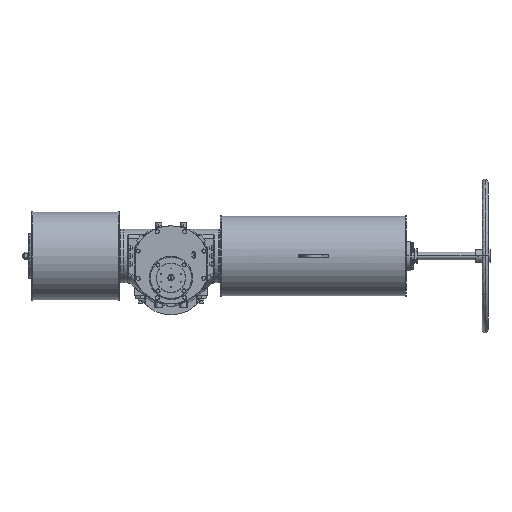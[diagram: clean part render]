
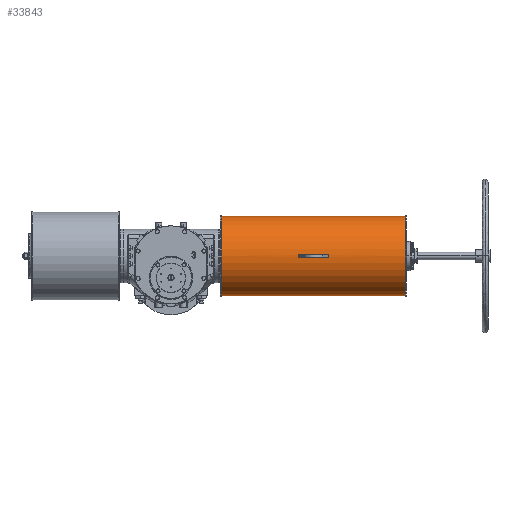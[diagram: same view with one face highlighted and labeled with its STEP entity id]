
A CAD part, top view. The second image highlights one B-rep face of the part: STEP entity #33843.
In plain terms, the highlighted cylindrical face has radius 162.5 mm (diameter 325 mm), a partial arc.
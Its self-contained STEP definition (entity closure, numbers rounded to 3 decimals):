
#648 = ORIENTED_EDGE ( 'NONE', *, *, #7518, .T. ) ;
#1036 = CIRCLE ( 'NONE', #63800, 162.5 ) ;
#2711 = ORIENTED_EDGE ( 'NONE', *, *, #26358, .F. ) ;
#3497 = EDGE_CURVE ( 'NONE', #88331, #74818, #28036, .T. ) ;
#7486 = CARTESIAN_POINT ( 'NONE',  ( 639.5, 35.5, 74.5 ) ) ;
#7518 = EDGE_CURVE ( 'NONE', #74818, #32414, #99628, .T. ) ;
#7764 = VERTEX_POINT ( 'NONE', #58979 ) ;
#8010 = AXIS2_PLACEMENT_3D ( 'NONE', #7486, #12950, #29427 ) ;
#12950 = DIRECTION ( 'NONE',  ( 1., 0., 0. ) ) ;
#13844 = CARTESIAN_POINT ( 'NONE',  ( 208., 30.5, 236.923 ) ) ;
#13988 = CARTESIAN_POINT ( 'NONE',  ( 208., 35.5, 74.5 ) ) ;
#17103 = DIRECTION ( 'NONE',  ( 1., 0., 0. ) ) ;
#17810 = VERTEX_POINT ( 'NONE', #99437 ) ;
#18122 = CARTESIAN_POINT ( 'NONE',  ( 208., -127., 74.5 ) ) ;
#18973 = CIRCLE ( 'NONE', #61443, 162.5 ) ;
#19576 = DIRECTION ( 'NONE',  ( 1., 0., 0. ) ) ;
#20088 = EDGE_CURVE ( 'NONE', #101818, #75071, #37321, .T. ) ;
#21393 = AXIS2_PLACEMENT_3D ( 'NONE', #38701, #31242, #95056 ) ;
#21820 = LINE ( 'NONE', #13844, #76360 ) ;
#23101 = CARTESIAN_POINT ( 'NONE',  ( 639.5, 35.5, 74.5 ) ) ;
#25055 = EDGE_CURVE ( 'NONE', #101818, #33232, #92397, .T. ) ;
#25483 = AXIS2_PLACEMENT_3D ( 'NONE', #34324, #99162, #58783 ) ;
#26358 = EDGE_CURVE ( 'NONE', #7764, #32414, #21820, .T. ) ;
#26688 = ORIENTED_EDGE ( 'NONE', *, *, #86812, .T. ) ;
#28036 = CIRCLE ( 'NONE', #87451, 162.5 ) ;
#29404 = FACE_OUTER_BOUND ( 'NONE', #31526, .T. ) ;
#29427 = DIRECTION ( 'NONE',  ( 0., -1., 0. ) ) ;
#29666 = DIRECTION ( 'NONE',  ( -1., 0., 0. ) ) ;
#31077 = DIRECTION ( 'NONE',  ( 1., 0., 0. ) ) ;
#31242 = DIRECTION ( 'NONE',  ( -1., 0., 0. ) ) ;
#31526 = EDGE_LOOP ( 'NONE', ( #53658, #71837, #45810, #54375 ) ) ;
#32061 = VERTEX_POINT ( 'NONE', #55104 ) ;
#32414 = VERTEX_POINT ( 'NONE', #90188 ) ;
#33232 = VERTEX_POINT ( 'NONE', #104537 ) ;
#33843 = ADVANCED_FACE ( 'NONE', ( #36830, #29404 ), #54402, .T. ) ;
#34324 = CARTESIAN_POINT ( 'NONE',  ( 205., 35.5, 74.5 ) ) ;
#35510 = CARTESIAN_POINT ( 'NONE',  ( 208., 198., 74.5 ) ) ;
#36830 = FACE_BOUND ( 'NONE', #59700, .T. ) ;
#37321 = CIRCLE ( 'NONE', #25483, 162.5 ) ;
#38701 = CARTESIAN_POINT ( 'NONE',  ( 519.5, 35.5, 74.5 ) ) ;
#45810 = ORIENTED_EDGE ( 'NONE', *, *, #58649, .T. ) ;
#46923 = DIRECTION ( 'NONE',  ( 0., 1., 0. ) ) ;
#48001 = CARTESIAN_POINT ( 'NONE',  ( 954., 35.5, 74.5 ) ) ;
#48796 = EDGE_CURVE ( 'NONE', #75071, #92744, #58027, .T. ) ;
#49240 = CARTESIAN_POINT ( 'NONE',  ( 639.5, 40.5, 236.923 ) ) ;
#50209 = CARTESIAN_POINT ( 'NONE',  ( 208., 40.5, 236.923 ) ) ;
#53658 = ORIENTED_EDGE ( 'NONE', *, *, #20088, .T. ) ;
#54340 = CARTESIAN_POINT ( 'NONE',  ( 639.5, 35.5, 237. ) ) ;
#54375 = ORIENTED_EDGE ( 'NONE', *, *, #25055, .F. ) ;
#54402 = CYLINDRICAL_SURFACE ( 'NONE', #81044, 162.5 ) ;
#55104 = CARTESIAN_POINT ( 'NONE',  ( 519.5, 40.5, 236.923 ) ) ;
#56134 = VECTOR ( 'NONE', #19576, 1000. ) ;
#58027 = LINE ( 'NONE', #18122, #77720 ) ;
#58649 = EDGE_CURVE ( 'NONE', #92744, #33232, #1036, .T. ) ;
#58783 = DIRECTION ( 'NONE',  ( 0., 1., 0. ) ) ;
#58979 = CARTESIAN_POINT ( 'NONE',  ( 519.5, 30.5, 236.923 ) ) ;
#59700 = EDGE_LOOP ( 'NONE', ( #2711, #62208, #70611, #26688, #84796, #648 ) ) ;
#61443 = AXIS2_PLACEMENT_3D ( 'NONE', #77517, #29666, #92953 ) ;
#62208 = ORIENTED_EDGE ( 'NONE', *, *, #86538, .T. ) ;
#63800 = AXIS2_PLACEMENT_3D ( 'NONE', #48001, #82470, #64971 ) ;
#64971 = DIRECTION ( 'NONE',  ( 0., 1., 0. ) ) ;
#65292 = CARTESIAN_POINT ( 'NONE',  ( 205., -127., 74.5 ) ) ;
#70611 = ORIENTED_EDGE ( 'NONE', *, *, #79793, .T. ) ;
#71837 = ORIENTED_EDGE ( 'NONE', *, *, #48796, .T. ) ;
#72291 = VECTOR ( 'NONE', #73099, 1000. ) ;
#73099 = DIRECTION ( 'NONE',  ( 1., 0., 0. ) ) ;
#74818 = VERTEX_POINT ( 'NONE', #54340 ) ;
#75071 = VERTEX_POINT ( 'NONE', #65292 ) ;
#76360 = VECTOR ( 'NONE', #91111, 1000. ) ;
#77517 = CARTESIAN_POINT ( 'NONE',  ( 519.5, 35.5, 74.5 ) ) ;
#77720 = VECTOR ( 'NONE', #17103, 1000. ) ;
#79793 = EDGE_CURVE ( 'NONE', #17810, #32061, #18973, .T. ) ;
#79993 = DIRECTION ( 'NONE',  ( 0., -1., 0. ) ) ;
#81044 = AXIS2_PLACEMENT_3D ( 'NONE', #13988, #94239, #46923 ) ;
#82470 = DIRECTION ( 'NONE',  ( -1., 0., 0. ) ) ;
#84796 = ORIENTED_EDGE ( 'NONE', *, *, #3497, .T. ) ;
#85209 = CARTESIAN_POINT ( 'NONE',  ( 954., -127., 74.5 ) ) ;
#85871 = CIRCLE ( 'NONE', #21393, 162.5 ) ;
#86538 = EDGE_CURVE ( 'NONE', #7764, #17810, #85871, .T. ) ;
#86812 = EDGE_CURVE ( 'NONE', #32061, #88331, #91675, .T. ) ;
#87451 = AXIS2_PLACEMENT_3D ( 'NONE', #23101, #31077, #79993 ) ;
#88331 = VERTEX_POINT ( 'NONE', #49240 ) ;
#90188 = CARTESIAN_POINT ( 'NONE',  ( 639.5, 30.5, 236.923 ) ) ;
#91111 = DIRECTION ( 'NONE',  ( 1., 0., 0. ) ) ;
#91675 = LINE ( 'NONE', #50209, #72291 ) ;
#92397 = LINE ( 'NONE', #35510, #56134 ) ;
#92744 = VERTEX_POINT ( 'NONE', #85209 ) ;
#92953 = DIRECTION ( 'NONE',  ( 0., 1., 0. ) ) ;
#94239 = DIRECTION ( 'NONE',  ( 1., 0., 0. ) ) ;
#95056 = DIRECTION ( 'NONE',  ( 0., 1., 0. ) ) ;
#99162 = DIRECTION ( 'NONE',  ( 1., 0., 0. ) ) ;
#99437 = CARTESIAN_POINT ( 'NONE',  ( 519.5, 35.5, 237. ) ) ;
#99628 = CIRCLE ( 'NONE', #8010, 162.5 ) ;
#101818 = VERTEX_POINT ( 'NONE', #104700 ) ;
#104537 = CARTESIAN_POINT ( 'NONE',  ( 954., 198., 74.5 ) ) ;
#104700 = CARTESIAN_POINT ( 'NONE',  ( 205., 198., 74.5 ) ) ;
